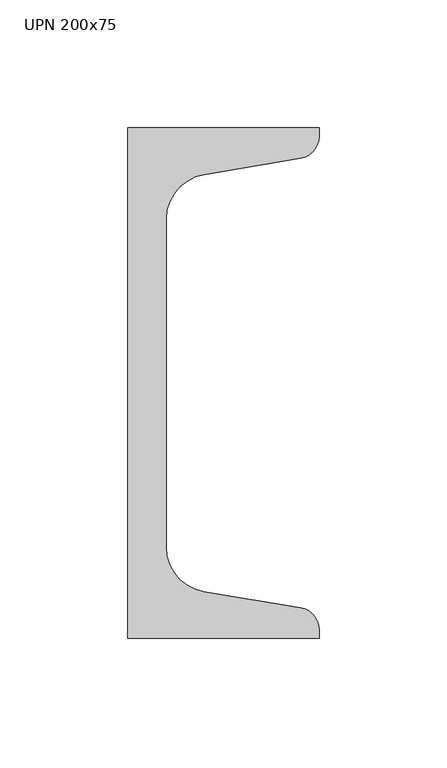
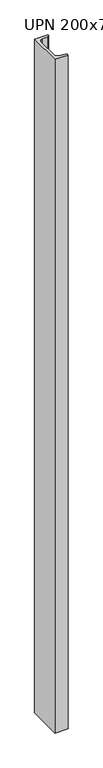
"""IFC4 building model written with IfcOpenShell, lengths in millimetres: column geometry, M_MC Shapes-Column : UPN 200x75."""

from ifc_helpers import new_model, si_unit, point, frame, frame_2d, origin, place, context, project, spatial, polyline, circle_curve, trimmed, segment, composite_curve, outline, extrude, source, transform, mapped, element, save


def upn_200x75_48ebdcb8(model_context):
    return source(origin(), model_context, "Body", "SweptSolid", [
        extrude(outline(composite_curve([segment(polyline([(-26.4, -100.0), (-26.4, 100.0), (48.6, 100.0), (48.6, 96.7227759)]), True, "CONTINUOUS"), segment(trimmed(circle_curve(frame_2d((39.7, 96.7227759)), 8.9), [point((48.6, 96.7227759))], [point((41.1631538, 87.9438705))], False, "CARTESIAN"), True, "CONTINUOUS"), segment(polyline([(41.1631538, 87.9438705), (3.4736923, 81.662281)]), True, "CONTINUOUS"), segment(trimmed(circle_curve(frame_2d((6.4, 64.1044701)), 17.8), [point((3.4736923, 81.662281))], [point((-11.4, 64.1044701))], True, "CARTESIAN"), True, "CONTINUOUS"), segment(polyline([(-11.4, 64.1044701), (-11.4, -64.1044701)]), True, "CONTINUOUS"), segment(trimmed(circle_curve(frame_2d((6.4, -64.1044701)), 17.8), [point((-11.4, -64.1044701))], [point((3.4736923, -81.662281))], True, "CARTESIAN"), True, "CONTINUOUS"), segment(polyline([(3.4736923, -81.662281), (41.1631538, -87.9438705)]), True, "CONTINUOUS"), segment(trimmed(circle_curve(frame_2d((39.7, -96.7227759)), 8.9), [point((41.1631538, -87.9438705))], [point((48.6, -96.7227759))], False, "CARTESIAN"), True, "CONTINUOUS"), segment(polyline([(48.6, -96.7227759), (48.6, -100.0), (-26.4, -100.0)]), True, "CONTINUOUS")], self_intersect=False)), frame((0.0, 0.0, 7100.0), z_axis=(0.0, 0.0, 1.0), x_axis=(1.0, 0.0, 0.0)), (0.0, 0.0, 1.0), 4060.0),
    ])


if __name__ == "__main__":
    model = new_model("IFC4")
    model_context = context("Model", 3, world=origin())
    ifc_project = project(units=[si_unit("LENGTHUNIT", "METRE", prefix="MILLI")], contexts=[model_context])
    site = spatial("IfcSite", under=ifc_project)
    building = spatial("IfcBuilding", under=site)
    placement = place(None, origin())
    upn_200x75_shape = upn_200x75_48ebdcb8(model_context)
    element("IfcColumn", 1, ObjectType="M_MC Shapes-Column : UPN 200x75", at=placement, inside=building, context=model_context, shape_type="MappedRepresentation", body=[
        mapped(upn_200x75_shape, transform((0.0, 0.0, 0.0), x_axis=(1.0, 0.0, 0.0), y_axis=(0.0, 1.0, 0.0), z_axis=(0.0, 0.0, 1.0))),
    ])
    save(model, "model.ifc")
